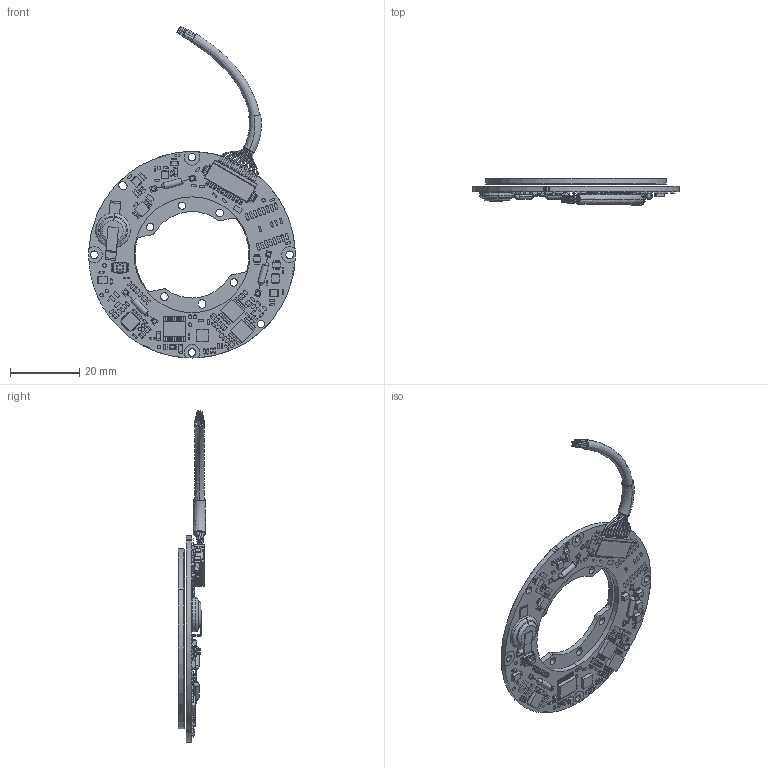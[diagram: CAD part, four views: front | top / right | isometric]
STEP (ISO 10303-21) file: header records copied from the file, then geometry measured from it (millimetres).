
FILE_DESCRIPTION (( 'STEP AP214' ), '1' );
FILE_NAME ('VLM-60.STEP', '2025-03-24T08:26:04', ( '' ), ( '' ), 'SwSTEP 2.0', 'SolidWorks 2022', '' );
FILE_SCHEMA (( 'AUTOMOTIVE_DESIGN' ));
Length unit declared in the file: millimetre
Products named in the file (14): Magnet; PB-00455-01; Battery lower contact; VLM-60; VLX-60-QR Cable; DF13-10P-1.25H; Coin Cell Battery CR 1025; DF13-10S-1.25C; CH-4452; MK-23-80 Reed sensor; VLX-60-QR Multiturn Rotor; PB-00458-01_Multiturn config; SW-00003; Battery upper contact
Assembly tree (15 placements, depth 3):
  VLM-60
    PB-00455-01
    VLX-60-QR Multiturn Rotor
      PB-00458-01_Multiturn config
      Magnet
    DF13-10P-1.25H
    DF13-10S-1.25C
    VLX-60-QR Cable
    MK-23-80 Reed sensor  x3
    SW-00003
    CH-4452
      Coin Cell Battery CR 1025
      Battery lower contact
      Battery upper contact
Bounding box: 59.69 x 7.82 x 96.02 mm (x, y, z)
Volume: 6284.6 mm3; surface area: 10921.6 mm2
Topology: 155 solids, 155 shells, 5433 faces, 13036 edges, 8589 vertices
Faces by surface type: plane 3591, cylinder 1623, bspline 170, torus 22, cone 15, sphere 12
Entity records: 212998 total; most frequent: CARTESIAN_POINT 39250, DIRECTION 26305, ORIENTED_EDGE 25780, EDGE_CURVE 12890, VECTOR 9241, LINE 9241, AXIS2_PLACEMENT_3D 8532, VERTEX_POINT 8507
